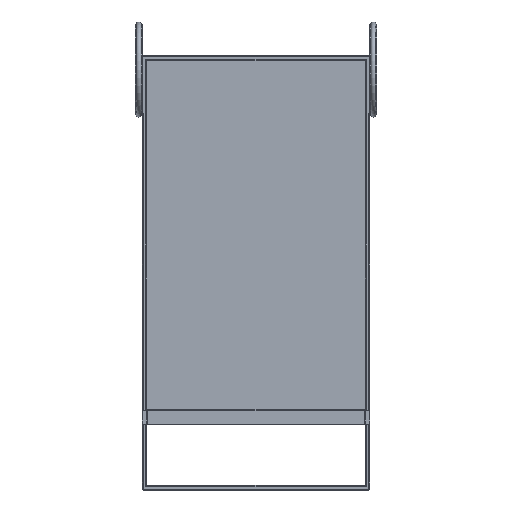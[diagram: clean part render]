
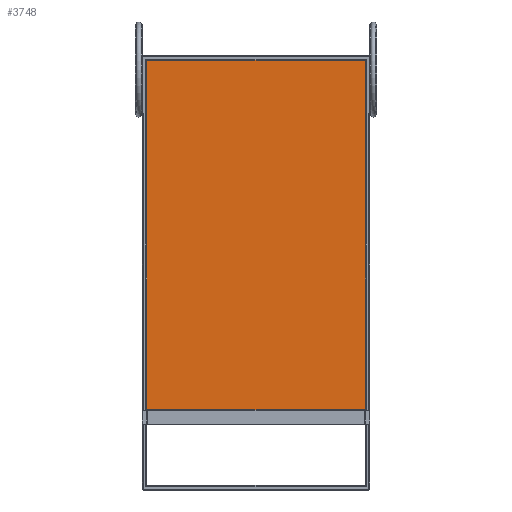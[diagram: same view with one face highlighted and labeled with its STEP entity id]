
A CAD part, front view. The second image highlights one B-rep face of the part: STEP entity #3748.
In plain terms, the highlighted planar face has unit normal (0, -1, 0).
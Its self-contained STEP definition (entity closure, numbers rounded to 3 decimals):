
#142=PLANE('',#4150);
#281=LINE('',#5592,#688);
#349=LINE('',#5764,#756);
#463=LINE('',#6098,#870);
#465=LINE('',#6101,#872);
#688=VECTOR('',#4417,10.);
#756=VECTOR('',#4561,10.);
#870=VECTOR('',#4915,10.);
#872=VECTOR('',#4919,10.);
#1252=FACE_OUTER_BOUND('',#1489,.T.);
#1489=EDGE_LOOP('',(#3092,#3093,#3094,#3095));
#1733=VERTEX_POINT('',#5589);
#1734=VERTEX_POINT('',#5591);
#1799=VERTEX_POINT('',#5761);
#1800=VERTEX_POINT('',#5763);
#2076=EDGE_CURVE('',#1733,#1734,#281,.T.);
#2161=EDGE_CURVE('',#1799,#1800,#349,.T.);
#2330=EDGE_CURVE('',#1800,#1733,#463,.T.);
#2332=EDGE_CURVE('',#1734,#1799,#465,.T.);
#3092=ORIENTED_EDGE('',*,*,#2330,.F.);
#3093=ORIENTED_EDGE('',*,*,#2161,.F.);
#3094=ORIENTED_EDGE('',*,*,#2332,.F.);
#3095=ORIENTED_EDGE('',*,*,#2076,.F.);
#3748=ADVANCED_FACE('',(#1252),#142,.F.);
#4150=AXIS2_PLACEMENT_3D('',#6100,#4917,#4918);
#4417=DIRECTION('',(0.,0.,1.));
#4561=DIRECTION('',(0.,0.,-1.));
#4915=DIRECTION('',(-1.,0.,0.));
#4917=DIRECTION('center_axis',(0.,1.,0.));
#4918=DIRECTION('ref_axis',(0.,0.,1.));
#4919=DIRECTION('',(1.,0.,0.));
#5589=CARTESIAN_POINT('',(-240.,7.,-373.));
#5591=CARTESIAN_POINT('',(-240.,7.,395.));
#5592=CARTESIAN_POINT('',(-240.,7.,-375.));
#5761=CARTESIAN_POINT('',(240.,7.,395.));
#5763=CARTESIAN_POINT('',(240.,7.,-373.));
#5764=CARTESIAN_POINT('',(240.,7.,395.));
#6098=CARTESIAN_POINT('',(120.,7.,-373.));
#6100=CARTESIAN_POINT('Origin',(0.,7.,10.));
#6101=CARTESIAN_POINT('',(-240.,7.,395.));
